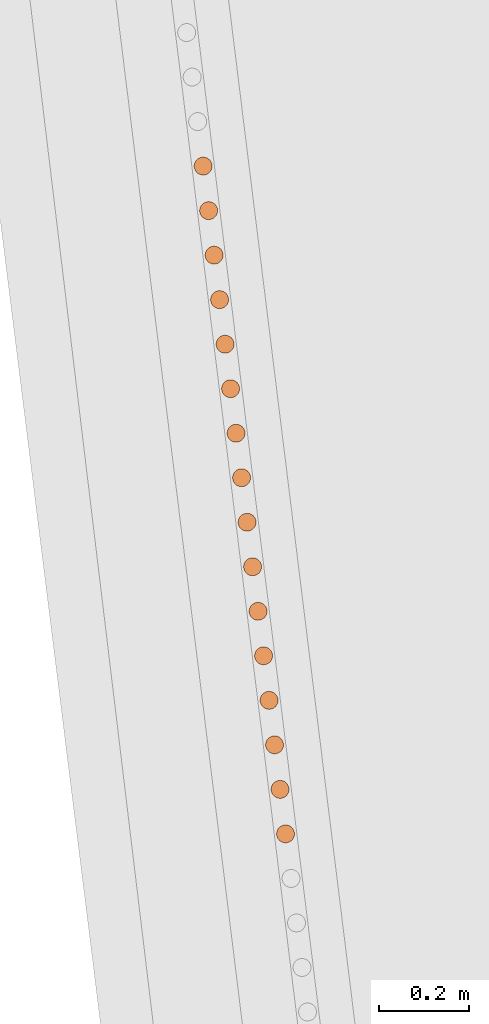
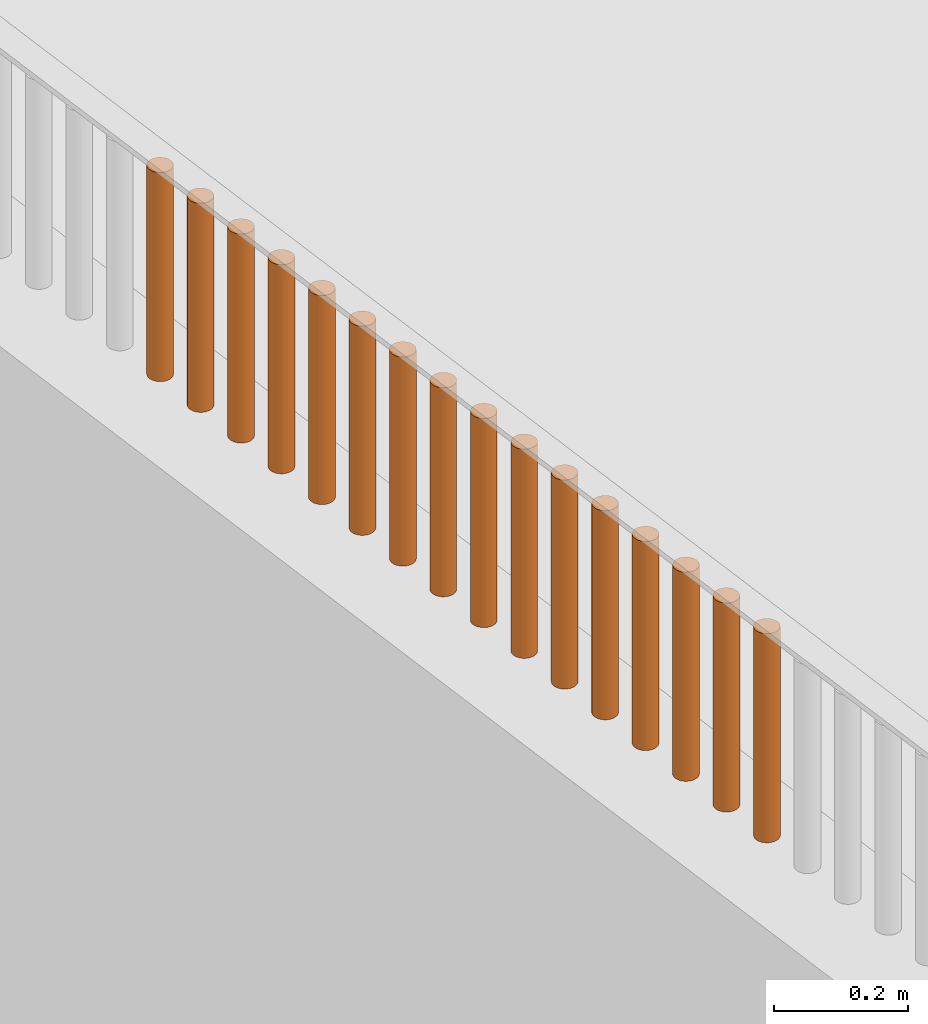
# One storey, part 124 of 1809: 16 proxies, 1 element without a shape of its own.
"""IFC2X3 building model written with IfcOpenShell, lengths in millimetres."""

from ifc_helpers import new_model, entity, si_unit, converted_unit, derived_unit, money_unit, direction, frame, origin_with_axes, place, context, subcontext, project, spatial, faceted_brep, source, transform, mapped, material, type_object, element, aggregate, save


model = new_model("IFC2X3")

# Units and contexts
model_context = context("Model", 3, precision=0.01, world=origin_with_axes(), true_north=direction((0.0, 1.0)))
body_context = subcontext(model_context, "Body", "Model", "MODEL_VIEW")
ifc_project = project(units=[si_unit("LENGTHUNIT", "METRE", prefix="MILLI"), si_unit("AREAUNIT", "SQUARE_METRE"), si_unit("VOLUMEUNIT", "CUBIC_METRE"), converted_unit("PLANEANGLEUNIT", "DEGREE", entity("IfcPlaneAngleMeasure", 0.0174532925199), si_unit("PLANEANGLEUNIT", "RADIAN"), dimensions=[0, 0, 0, 0, 0, 0, 0]), si_unit("SOLIDANGLEUNIT", "STERADIAN"), money_unit("EUR"), converted_unit("TIMEUNIT", "Year", entity("IfcTimeMeasure", 31556926.0), si_unit("TIMEUNIT", "SECOND"), dimensions=[0, 0, 1, 0, 0, 0, 0]), si_unit("MASSUNIT", "GRAM", prefix="KILO"), si_unit("THERMODYNAMICTEMPERATUREUNIT", "DEGREE_CELSIUS"), si_unit("LUMINOUSINTENSITYUNIT", "LUMEN"), si_unit("ENERGYUNIT", "JOULE", prefix="MEGA"), derived_unit("THERMALCONDUCTANCEUNIT", [(si_unit("POWERUNIT", "WATT"), 1), (si_unit("LENGTHUNIT", "METRE"), -1), (si_unit("THERMODYNAMICTEMPERATUREUNIT", "KELVIN"), -1)]), derived_unit("SPECIFICHEATCAPACITYUNIT", [(si_unit("ENERGYUNIT", "JOULE"), 1), (si_unit("MASSUNIT", "GRAM", prefix="KILO"), -1), (si_unit("THERMODYNAMICTEMPERATUREUNIT", "KELVIN"), -1)]), derived_unit("MASSDENSITYUNIT", [(si_unit("MASSUNIT", "GRAM", prefix="KILO"), 1), (si_unit("VOLUMEUNIT", "CUBIC_METRE"), -1)])], contexts=[model_context])

# Site, building, storey
site_placement = place(None, origin_with_axes())
site = spatial("IfcSite", under=ifc_project, at=site_placement, Name="Politse- ja Piirivalveameti ning Päästeameti ühishoone", CompositionType="ELEMENT")
building_placement = place(site_placement, origin_with_axes())
building = spatial("IfcBuilding", under=site, at=building_placement, Name="Politse- ja Piirivalveameti ning Päästeameti ühishoone", CompositionType="ELEMENT")
storey_placement = place(building_placement, origin_with_axes())
storey = spatial("IfcBuildingStorey", under=building, at=storey_placement, Name="Esimene korrus", CompositionType="ELEMENT", Elevation=0.0)

# Proxies
building_element_proxy_type_1 = type_object("IfcBuildingElementProxyType", Name="Railing Type", PredefinedType="NOTDEFINED")
proxy_1_placement = place(storey_placement, frame((-18956.5522504, -53688.4757966, 2100.0), z_axis=(0.0, 0.0, 1.0), x_axis=(1.0, 0.0, 0.0)))
proxy_1 = element("IfcBuildingElementProxy", 1, at=proxy_1_placement, inside=storey, type_object=building_element_proxy_type_1, Name="PIIRDEAED")
ifc_material = material(Name="ET-06_Teras - Konstruktsioon")
building_element_proxy_type_2 = type_object("IfcBuildingElementProxyType", Name="IfcBuildingElementProxy", PredefinedType="NOTDEFINED")
shared_shape_1 = source(origin_with_axes(), body_context, "Body", "Brep", [
    faceted_brep([(0.0, -20.0, 0.0), (3.47296355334, -19.6961550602, 0.0), (3.47296355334, -19.6961550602, 380.000012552), (0.0, -20.0, 380.000012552), (-3.47296355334, -19.6961550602, 0.0), (-6.84040286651, -18.7938524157, 0.0), (-10.0, -17.3205080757, 0.0), (-12.8557521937, -15.3208888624, 0.0), (-15.3208888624, -12.8557521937, 0.0), (-17.3205080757, -10.0, 0.0), (-18.7938524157, -6.84040286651, 0.0), (-19.6961550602, -3.47296355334, 0.0), (-20.0, 0.0, 0.0), (-19.6961550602, 3.47296355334, 0.0), (-18.7938524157, 6.84040286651, 0.0), (-17.3205080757, 10.0, 0.0), (-15.3208888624, 12.8557521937, 0.0), (-12.8557521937, 15.3208888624, 0.0), (-10.0, 17.3205080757, 0.0), (-6.84040286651, 18.7938524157, 0.0), (-3.47296355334, 19.6961550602, 0.0), (0.0, 20.0, 0.0), (3.47296355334, 19.6961550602, 0.0), (6.84040286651, 18.7938524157, 0.0), (10.0, 17.3205080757, 0.0), (12.8557521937, 15.3208888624, 0.0), (15.3208888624, 12.8557521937, 0.0), (17.3205080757, 10.0, 0.0), (18.7938524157, 6.84040286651, 0.0), (19.6961550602, 3.47296355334, 0.0), (20.0, 0.0, 0.0), (19.6961550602, -3.47296355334, 0.0), (18.7938524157, -6.84040286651, 0.0), (17.3205080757, -10.0, 0.0), (15.3208888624, -12.8557521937, 0.0), (12.8557521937, -15.3208888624, 0.0), (10.0, -17.3205080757, 0.0), (6.84040286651, -18.7938524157, 0.0), (6.84040286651, -18.7938524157, 380.000012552), (10.0, -17.3205080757, 380.000012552), (12.8557521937, -15.3208888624, 380.000012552), (15.3208888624, -12.8557521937, 380.000012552), (17.3205080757, -10.0, 380.000012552), (18.7938524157, -6.84040286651, 380.000012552), (19.6961550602, -3.47296355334, 380.000012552), (20.0, 0.0, 380.000012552), (19.6961550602, 3.47296355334, 380.000012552), (18.7938524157, 6.84040286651, 380.000012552), (17.3205080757, 10.0, 380.000012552), (15.3208888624, 12.8557521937, 380.000012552), (12.8557521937, 15.3208888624, 380.000012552), (10.0, 17.3205080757, 380.000012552), (6.84040286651, 18.7938524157, 380.000012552), (3.47296355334, 19.6961550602, 380.000012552), (0.0, 20.0, 380.000012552), (-3.47296355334, 19.6961550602, 380.000012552), (-6.84040286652, 18.7938524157, 380.000012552), (-10.0, 17.3205080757, 380.000012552), (-12.8557521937, 15.3208888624, 380.000012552), (-15.3208888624, 12.8557521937, 380.000012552), (-17.3205080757, 10.0, 380.000012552), (-18.7938524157, 6.84040286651, 380.000012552), (-19.6961550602, 3.47296355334, 380.000012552), (-20.0, 0.0, 380.000012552), (-19.6961550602, -3.47296355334, 380.000012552), (-18.7938524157, -6.84040286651, 380.000012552), (-17.3205080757, -10.0, 380.000012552), (-15.3208888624, -12.8557521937, 380.000012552), (-12.8557521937, -15.3208888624, 380.000012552), (-10.0, -17.3205080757, 380.000012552), (-6.84040286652, -18.7938524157, 380.000012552), (-3.47296355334, -19.6961550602, 380.000012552)], [[[0, 1, 2, 3]], [[0, 4, 5, 6, 7, 8, 9, 10, 11, 12, 13, 14, 15, 16, 17, 18, 19, 20, 21, 22, 23, 24, 25, 26, 27, 28, 29, 30, 31, 32, 33, 34, 35, 36, 37, 1]], [[1, 37, 38, 2]], [[3, 2, 38, 39, 40, 41, 42, 43, 44, 45, 46, 47, 48, 49, 50, 51, 52, 53, 54, 55, 56, 57, 58, 59, 60, 61, 62, 63, 64, 65, 66, 67, 68, 69, 70, 71]], [[4, 0, 3, 71]], [[5, 4, 71, 70]], [[6, 5, 70, 69]], [[7, 6, 69, 68]], [[8, 7, 68, 67]], [[9, 8, 67, 66]], [[10, 9, 66, 65]], [[11, 10, 65, 64]], [[12, 11, 64, 63]], [[13, 12, 63, 62]], [[14, 13, 62, 61]], [[15, 14, 61, 60]], [[16, 15, 60, 59]], [[17, 16, 59, 58]], [[18, 17, 58, 57]], [[19, 18, 57, 56]], [[20, 19, 56, 55]], [[21, 20, 55, 54]], [[22, 21, 54, 53]], [[23, 22, 53, 52]], [[24, 23, 52, 51]], [[25, 24, 51, 50]], [[26, 25, 50, 49]], [[27, 26, 49, 48]], [[28, 27, 48, 47]], [[29, 28, 47, 46]], [[30, 29, 46, 45]], [[31, 30, 45, 44]], [[32, 31, 44, 43]], [[33, 32, 43, 42]], [[34, 33, 42, 41]], [[35, 34, 41, 40]], [[36, 35, 40, 39]], [[37, 36, 39, 38]]]),
])
proxy_2_placement = place(proxy_1_placement, frame((-3510.13251349, 27603.4023128, -1.25517001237e-05), z_axis=(0.0, 0.0, 1.0), x_axis=(1.0, 0.0, 0.0)))
proxy_2 = element("IfcBuildingElementProxy", 2, at=proxy_2_placement, type_object=building_element_proxy_type_2, material=ifc_material, Name="BALUSTER - 001", context=body_context, shape_type="MappedRepresentation", body=[
    mapped(shared_shape_1, transform((0.0, 0.0, 0.0), x_axis=(0.992468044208, 0.122503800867, 0.0), y_axis=(-0.122503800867, 0.992468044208, 0.0), z_axis=(0.0, 0.0, 1.0))),
])
proxy_3_placement = place(proxy_1_placement, frame((-3559.12333314, 28000.3028385, -1.25517001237e-05), z_axis=(0.0, 0.0, 1.0), x_axis=(1.0, 0.0, 0.0)))
proxy_3 = element("IfcBuildingElementProxy", 3, at=proxy_3_placement, type_object=building_element_proxy_type_2, material=ifc_material, Name="BALUSTER - 001", context=body_context, shape_type="MappedRepresentation", body=[
    mapped(shared_shape_1, transform((0.0, 0.0, 0.0), x_axis=(0.992468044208, 0.122503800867, 0.0), y_axis=(-0.122503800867, 0.992468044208, 0.0), z_axis=(0.0, 0.0, 1.0))),
])
proxy_4_placement = place(proxy_1_placement, frame((-3595.86644788, 28297.9782328, -1.25517001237e-05), z_axis=(0.0, 0.0, 1.0), x_axis=(1.0, 0.0, 0.0)))
proxy_4 = element("IfcBuildingElementProxy", 4, at=proxy_4_placement, type_object=building_element_proxy_type_2, material=ifc_material, Name="BALUSTER - 001", context=body_context, shape_type="MappedRepresentation", body=[
    mapped(shared_shape_1, transform((0.0, 0.0, 0.0), x_axis=(0.992468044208, 0.122503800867, 0.0), y_axis=(-0.122503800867, 0.992468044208, 0.0), z_axis=(0.0, 0.0, 1.0))),
])
proxy_5_placement = place(proxy_1_placement, frame((-3632.60956262, 28595.6536271, -1.25517001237e-05), z_axis=(0.0, 0.0, 1.0), x_axis=(1.0, 0.0, 0.0)))
proxy_5 = element("IfcBuildingElementProxy", 5, at=proxy_5_placement, type_object=building_element_proxy_type_2, material=ifc_material, Name="BALUSTER - 001", context=body_context, shape_type="MappedRepresentation", body=[
    mapped(shared_shape_1, transform((0.0, 0.0, 0.0), x_axis=(0.992468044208, 0.122503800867, 0.0), y_axis=(-0.122503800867, 0.992468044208, 0.0), z_axis=(0.0, 0.0, 1.0))),
])
shared_shape_2 = source(origin_with_axes(), body_context, "Body", "Brep", [
    faceted_brep([(0.0, -20.0, 0.0), (3.47296355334, -19.6961550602, 0.0), (3.47296355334, -19.6961550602, 380.000012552), (0.0, -20.0, 380.000012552), (-3.47296355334, -19.6961550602, 0.0), (-6.84040286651, -18.7938524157, 0.0), (-10.0, -17.3205080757, 0.0), (-12.8557521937, -15.3208888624, 0.0), (-15.3208888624, -12.8557521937, 0.0), (-17.3205080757, -10.0, 0.0), (-18.7938524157, -6.84040286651, 0.0), (-19.6961550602, -3.47296355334, 0.0), (-20.0, 0.0, 0.0), (-19.6961550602, 3.47296355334, 0.0), (-18.7938524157, 6.84040286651, 0.0), (-17.3205080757, 10.0, 0.0), (-15.3208888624, 12.8557521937, 0.0), (-12.8557521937, 15.3208888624, 0.0), (-10.0, 17.3205080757, 0.0), (-6.84040286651, 18.7938524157, 0.0), (-3.47296355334, 19.6961550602, 0.0), (0.0, 20.0, 0.0), (3.47296355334, 19.6961550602, 0.0), (6.84040286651, 18.7938524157, 0.0), (10.0, 17.3205080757, 0.0), (12.8557521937, 15.3208888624, 0.0), (15.3208888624, 12.8557521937, 0.0), (17.3205080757, 10.0, 0.0), (18.7938524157, 6.84040286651, 0.0), (19.6961550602, 3.47296355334, 0.0), (20.0, 0.0, 0.0), (19.6961550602, -3.47296355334, 0.0), (18.7938524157, -6.84040286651, 0.0), (17.3205080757, -10.0, 0.0), (15.3208888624, -12.8557521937, 0.0), (12.8557521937, -15.3208888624, 0.0), (10.0, -17.3205080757, 0.0), (6.84040286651, -18.7938524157, 0.0), (6.84040286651, -18.7938524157, 380.000012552), (10.0, -17.3205080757, 380.000012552), (12.8557521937, -15.3208888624, 380.000012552), (15.3208888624, -12.8557521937, 380.000012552), (17.3205080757, -10.0, 380.000012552), (18.7938524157, -6.84040286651, 380.000012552), (19.6961550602, -3.47296355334, 380.000012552), (20.0, 0.0, 380.000012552), (19.6961550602, 3.47296355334, 380.000012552), (18.7938524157, 6.84040286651, 380.000012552), (17.3205080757, 10.0, 380.000012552), (15.3208888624, 12.8557521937, 380.000012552), (12.8557521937, 15.3208888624, 380.000012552), (10.0, 17.3205080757, 380.000012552), (6.84040286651, 18.7938524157, 380.000012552), (3.47296355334, 19.6961550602, 380.000012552), (0.0, 20.0, 380.000012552), (-3.47296355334, 19.6961550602, 380.000012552), (-6.84040286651, 18.7938524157, 380.000012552), (-10.0, 17.3205080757, 380.000012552), (-12.8557521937, 15.3208888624, 380.000012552), (-15.3208888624, 12.8557521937, 380.000012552), (-17.3205080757, 10.0, 380.000012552), (-18.7938524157, 6.84040286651, 380.000012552), (-19.6961550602, 3.47296355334, 380.000012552), (-20.0, 0.0, 380.000012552), (-19.6961550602, -3.47296355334, 380.000012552), (-18.7938524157, -6.84040286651, 380.000012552), (-17.3205080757, -10.0, 380.000012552), (-15.3208888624, -12.8557521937, 380.000012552), (-12.8557521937, -15.3208888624, 380.000012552), (-10.0, -17.3205080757, 380.000012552), (-6.84040286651, -18.7938524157, 380.000012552), (-3.47296355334, -19.6961550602, 380.000012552)], [[[0, 1, 2, 3]], [[0, 4, 5, 6, 7, 8, 9, 10, 11, 12, 13, 14, 15, 16, 17, 18, 19, 20, 21, 22, 23, 24, 25, 26, 27, 28, 29, 30, 31, 32, 33, 34, 35, 36, 37, 1]], [[1, 37, 38, 2]], [[3, 2, 38, 39, 40, 41, 42, 43, 44, 45, 46, 47, 48, 49, 50, 51, 52, 53, 54, 55, 56, 57, 58, 59, 60, 61, 62, 63, 64, 65, 66, 67, 68, 69, 70, 71]], [[4, 0, 3, 71]], [[5, 4, 71, 70]], [[6, 5, 70, 69]], [[7, 6, 69, 68]], [[8, 7, 68, 67]], [[9, 8, 67, 66]], [[10, 9, 66, 65]], [[11, 10, 65, 64]], [[12, 11, 64, 63]], [[13, 12, 63, 62]], [[14, 13, 62, 61]], [[15, 14, 61, 60]], [[16, 15, 60, 59]], [[17, 16, 59, 58]], [[18, 17, 58, 57]], [[19, 18, 57, 56]], [[20, 19, 56, 55]], [[21, 20, 55, 54]], [[22, 21, 54, 53]], [[23, 22, 53, 52]], [[24, 23, 52, 51]], [[25, 24, 51, 50]], [[26, 25, 50, 49]], [[27, 26, 49, 48]], [[28, 27, 48, 47]], [[29, 28, 47, 46]], [[30, 29, 46, 45]], [[31, 30, 45, 44]], [[32, 31, 44, 43]], [[33, 32, 43, 42]], [[34, 33, 42, 41]], [[35, 34, 41, 40]], [[36, 35, 40, 39]], [[37, 36, 39, 38]]]),
])
proxy_6_placement = place(proxy_1_placement, frame((-3448.89398892, 27107.2766557, -1.25517001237e-05), z_axis=(0.0, 0.0, 1.0), x_axis=(1.0, 0.0, 0.0)))
proxy_6 = element("IfcBuildingElementProxy", 6, at=proxy_6_placement, type_object=building_element_proxy_type_2, material=ifc_material, Name="BALUSTER - 001", context=body_context, shape_type="MappedRepresentation", body=[
    mapped(shared_shape_2, transform((0.0, 0.0, 0.0), x_axis=(0.992468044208, 0.122503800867, 0.0), y_axis=(-0.122503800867, 0.992468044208, 0.0), z_axis=(0.0, 0.0, 1.0))),
])
proxy_7_placement = place(proxy_1_placement, frame((-3473.38939875, 27305.7269185, -1.25517001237e-05), z_axis=(0.0, 0.0, 1.0), x_axis=(1.0, 0.0, 0.0)))
proxy_7 = element("IfcBuildingElementProxy", 7, at=proxy_7_placement, type_object=building_element_proxy_type_2, material=ifc_material, Name="BALUSTER - 001", context=body_context, shape_type="MappedRepresentation", body=[
    mapped(shared_shape_2, transform((0.0, 0.0, 0.0), x_axis=(0.992468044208, 0.122503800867, 0.0), y_axis=(-0.122503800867, 0.992468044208, 0.0), z_axis=(0.0, 0.0, 1.0))),
])
proxy_8_placement = place(proxy_1_placement, frame((-3485.63710366, 27404.95205, -1.25517001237e-05), z_axis=(0.0, 0.0, 1.0), x_axis=(1.0, 0.0, 0.0)))
proxy_8 = element("IfcBuildingElementProxy", 8, at=proxy_8_placement, type_object=building_element_proxy_type_2, material=ifc_material, Name="BALUSTER - 001", context=body_context, shape_type="MappedRepresentation", body=[
    mapped(shared_shape_2, transform((0.0, 0.0, 0.0), x_axis=(0.992468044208, 0.122503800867, 0.0), y_axis=(-0.122503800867, 0.992468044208, 0.0), z_axis=(0.0, 0.0, 1.0))),
])
proxy_9_placement = place(proxy_1_placement, frame((-3497.88480857, 27504.1771814, -1.25517001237e-05), z_axis=(0.0, 0.0, 1.0), x_axis=(1.0, 0.0, 0.0)))
proxy_9 = element("IfcBuildingElementProxy", 9, at=proxy_9_placement, type_object=building_element_proxy_type_2, material=ifc_material, Name="BALUSTER - 001", context=body_context, shape_type="MappedRepresentation", body=[
    mapped(shared_shape_2, transform((0.0, 0.0, 0.0), x_axis=(0.992468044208, 0.122503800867, 0.0), y_axis=(-0.122503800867, 0.992468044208, 0.0), z_axis=(0.0, 0.0, 1.0))),
])
proxy_10_placement = place(proxy_1_placement, frame((-3522.3802184, 27702.6274442, -1.25517001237e-05), z_axis=(0.0, 0.0, 1.0), x_axis=(1.0, 0.0, 0.0)))
proxy_10 = element("IfcBuildingElementProxy", 10, at=proxy_10_placement, type_object=building_element_proxy_type_2, material=ifc_material, Name="BALUSTER - 001", context=body_context, shape_type="MappedRepresentation", body=[
    mapped(shared_shape_2, transform((0.0, 0.0, 0.0), x_axis=(0.992468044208, 0.122503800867, 0.0), y_axis=(-0.122503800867, 0.992468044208, 0.0), z_axis=(0.0, 0.0, 1.0))),
])
shared_shape_3 = source(origin_with_axes(), body_context, "Body", "Brep", [
    faceted_brep([(0.0, -20.0, 0.0), (3.47296355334, -19.6961550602, 0.0), (3.47296355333, -19.6961550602, 380.000012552), (0.0, -20.0, 380.000012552), (-3.47296355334, -19.6961550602, 0.0), (-6.84040286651, -18.7938524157, 0.0), (-10.0, -17.3205080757, 0.0), (-12.8557521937, -15.3208888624, 0.0), (-15.3208888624, -12.8557521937, 0.0), (-17.3205080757, -10.0, 0.0), (-18.7938524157, -6.84040286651, 0.0), (-19.6961550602, -3.47296355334, 0.0), (-20.0, 0.0, 0.0), (-19.6961550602, 3.47296355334, 0.0), (-18.7938524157, 6.84040286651, 0.0), (-17.3205080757, 10.0, 0.0), (-15.3208888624, 12.8557521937, 0.0), (-12.8557521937, 15.3208888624, 0.0), (-10.0, 17.3205080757, 0.0), (-6.84040286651, 18.7938524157, 0.0), (-3.47296355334, 19.6961550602, 0.0), (0.0, 20.0, 0.0), (3.47296355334, 19.6961550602, 0.0), (6.84040286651, 18.7938524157, 0.0), (10.0, 17.3205080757, 0.0), (12.8557521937, 15.3208888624, 0.0), (15.3208888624, 12.8557521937, 0.0), (17.3205080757, 10.0, 0.0), (18.7938524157, 6.84040286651, 0.0), (19.6961550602, 3.47296355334, 0.0), (20.0, 0.0, 0.0), (19.6961550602, -3.47296355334, 0.0), (18.7938524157, -6.84040286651, 0.0), (17.3205080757, -10.0, 0.0), (15.3208888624, -12.8557521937, 0.0), (12.8557521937, -15.3208888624, 0.0), (10.0, -17.3205080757, 0.0), (6.84040286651, -18.7938524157, 0.0), (6.84040286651, -18.7938524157, 380.000012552), (9.99999999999, -17.3205080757, 380.000012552), (12.8557521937, -15.3208888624, 380.000012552), (15.3208888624, -12.8557521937, 380.000012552), (17.3205080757, -10.0, 380.000012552), (18.7938524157, -6.84040286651, 380.000012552), (19.6961550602, -3.47296355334, 380.000012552), (20.0, 0.0, 380.000012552), (19.6961550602, 3.47296355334, 380.000012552), (18.7938524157, 6.84040286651, 380.000012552), (17.3205080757, 10.0, 380.000012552), (15.3208888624, 12.8557521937, 380.000012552), (12.8557521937, 15.3208888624, 380.000012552), (9.99999999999, 17.3205080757, 380.000012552), (6.84040286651, 18.7938524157, 380.000012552), (3.47296355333, 19.6961550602, 380.000012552), (0.0, 20.0, 380.000012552), (-3.47296355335, 19.6961550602, 380.000012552), (-6.84040286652, 18.7938524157, 380.000012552), (-10.0, 17.3205080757, 380.000012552), (-12.8557521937, 15.3208888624, 380.000012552), (-15.3208888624, 12.8557521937, 380.000012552), (-17.3205080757, 10.0, 380.000012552), (-18.7938524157, 6.84040286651, 380.000012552), (-19.6961550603, 3.47296355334, 380.000012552), (-20.0, 0.0, 380.000012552), (-19.6961550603, -3.47296355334, 380.000012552), (-18.7938524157, -6.84040286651, 380.000012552), (-17.3205080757, -10.0, 380.000012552), (-15.3208888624, -12.8557521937, 380.000012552), (-12.8557521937, -15.3208888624, 380.000012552), (-10.0, -17.3205080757, 380.000012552), (-6.84040286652, -18.7938524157, 380.000012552), (-3.47296355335, -19.6961550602, 380.000012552)], [[[0, 1, 2, 3]], [[0, 4, 5, 6, 7, 8, 9, 10, 11, 12, 13, 14, 15, 16, 17, 18, 19, 20, 21, 22, 23, 24, 25, 26, 27, 28, 29, 30, 31, 32, 33, 34, 35, 36, 37, 1]], [[1, 37, 38, 2]], [[3, 2, 38, 39, 40, 41, 42, 43, 44, 45, 46, 47, 48, 49, 50, 51, 52, 53, 54, 55, 56, 57, 58, 59, 60, 61, 62, 63, 64, 65, 66, 67, 68, 69, 70, 71]], [[4, 0, 3, 71]], [[5, 4, 71, 70]], [[6, 5, 70, 69]], [[7, 6, 69, 68]], [[8, 7, 68, 67]], [[9, 8, 67, 66]], [[10, 9, 66, 65]], [[11, 10, 65, 64]], [[12, 11, 64, 63]], [[13, 12, 63, 62]], [[14, 13, 62, 61]], [[15, 14, 61, 60]], [[16, 15, 60, 59]], [[17, 16, 59, 58]], [[18, 17, 58, 57]], [[19, 18, 57, 56]], [[20, 19, 56, 55]], [[21, 20, 55, 54]], [[22, 21, 54, 53]], [[23, 22, 53, 52]], [[24, 23, 52, 51]], [[25, 24, 51, 50]], [[26, 25, 50, 49]], [[27, 26, 49, 48]], [[28, 27, 48, 47]], [[29, 28, 47, 46]], [[30, 29, 46, 45]], [[31, 30, 45, 44]], [[32, 31, 44, 43]], [[33, 32, 43, 42]], [[34, 33, 42, 41]], [[35, 34, 41, 40]], [[36, 35, 40, 39]], [[37, 36, 39, 38]]]),
])
proxy_11_placement = place(proxy_1_placement, frame((-3546.87562823, 27901.0777071, -1.25517001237e-05), z_axis=(0.0, 0.0, 1.0), x_axis=(1.0, 0.0, 0.0)))
proxy_11 = element("IfcBuildingElementProxy", 11, at=proxy_11_placement, type_object=building_element_proxy_type_2, material=ifc_material, Name="BALUSTER - 001", context=body_context, shape_type="MappedRepresentation", body=[
    mapped(shared_shape_3, transform((0.0, 0.0, 0.0), x_axis=(0.992468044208, 0.122503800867, 0.0), y_axis=(-0.122503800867, 0.992468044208, 0.0), z_axis=(0.0, 0.0, 1.0))),
])
shared_shape_4 = source(origin_with_axes(), body_context, "Body", "Brep", [
    faceted_brep([(0.0, -20.0, 0.0), (3.47296355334, -19.6961550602, 0.0), (3.47296355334, -19.6961550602, 380.000012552), (0.0, -20.0, 380.000012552), (-3.47296355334, -19.6961550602, 0.0), (-6.84040286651, -18.7938524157, 0.0), (-10.0, -17.3205080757, 0.0), (-12.8557521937, -15.3208888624, 0.0), (-15.3208888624, -12.8557521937, 0.0), (-17.3205080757, -10.0, 0.0), (-18.7938524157, -6.84040286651, 0.0), (-19.6961550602, -3.47296355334, 0.0), (-20.0, 0.0, 0.0), (-19.6961550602, 3.47296355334, 0.0), (-18.7938524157, 6.84040286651, 0.0), (-17.3205080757, 10.0, 0.0), (-15.3208888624, 12.8557521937, 0.0), (-12.8557521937, 15.3208888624, 0.0), (-10.0, 17.3205080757, 0.0), (-6.84040286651, 18.7938524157, 0.0), (-3.47296355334, 19.6961550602, 0.0), (0.0, 20.0, 0.0), (3.47296355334, 19.6961550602, 0.0), (6.84040286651, 18.7938524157, 0.0), (10.0, 17.3205080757, 0.0), (12.8557521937, 15.3208888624, 0.0), (15.3208888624, 12.8557521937, 0.0), (17.3205080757, 10.0, 0.0), (18.7938524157, 6.84040286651, 0.0), (19.6961550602, 3.47296355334, 0.0), (20.0, 0.0, 0.0), (19.6961550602, -3.47296355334, 0.0), (18.7938524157, -6.84040286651, 0.0), (17.3205080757, -10.0, 0.0), (15.3208888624, -12.8557521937, 0.0), (12.8557521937, -15.3208888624, 0.0), (10.0, -17.3205080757, 0.0), (6.84040286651, -18.7938524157, 0.0), (6.84040286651, -18.7938524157, 380.000012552), (10.0, -17.3205080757, 380.000012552), (12.8557521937, -15.3208888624, 380.000012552), (15.3208888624, -12.8557521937, 380.000012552), (17.3205080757, -10.0, 380.000012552), (18.7938524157, -6.84040286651, 380.000012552), (19.6961550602, -3.47296355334, 380.000012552), (20.0, 0.0, 380.000012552), (19.6961550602, 3.47296355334, 380.000012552), (18.7938524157, 6.84040286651, 380.000012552), (17.3205080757, 10.0, 380.000012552), (15.3208888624, 12.8557521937, 380.000012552), (12.8557521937, 15.3208888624, 380.000012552), (10.0, 17.3205080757, 380.000012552), (6.84040286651, 18.7938524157, 380.000012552), (3.47296355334, 19.6961550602, 380.000012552), (0.0, 20.0, 380.000012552), (-3.47296355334, 19.6961550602, 380.000012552), (-6.84040286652, 18.7938524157, 380.000012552), (-10.0, 17.3205080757, 380.000012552), (-12.8557521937, 15.3208888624, 380.000012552), (-15.3208888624, 12.8557521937, 380.000012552), (-17.3205080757, 10.0, 380.000012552), (-18.7938524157, 6.84040286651, 380.000012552), (-19.6961550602, 3.47296355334, 380.000012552), (-20.0, 0.0, 380.000012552), (-19.6961550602, -3.47296355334, 380.000012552), (-18.7938524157, -6.84040286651, 380.000012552), (-17.3205080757, -10.0, 380.000012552), (-15.3208888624, -12.8557521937, 380.000012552), (-12.8557521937, -15.3208888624, 380.000012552), (-10.0, -17.3205080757, 380.000012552), (-6.84040286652, -18.7938524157, 380.000012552), (-3.47296355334, -19.6961550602, 380.000012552)], [[[0, 1, 2, 3]], [[0, 4, 5, 6, 7, 8, 9, 10, 11, 12, 13, 14, 15, 16, 17, 18, 19, 20, 21, 22, 23, 24, 25, 26, 27, 28, 29, 30, 31, 32, 33, 34, 35, 36, 37, 1]], [[1, 37, 38, 2]], [[3, 2, 38, 39, 40, 41, 42, 43, 44, 45, 46, 47, 48, 49, 50, 51, 52, 53, 54, 55, 56, 57, 58, 59, 60, 61, 62, 63, 64, 65, 66, 67, 68, 69, 70, 71]], [[4, 0, 3, 71]], [[5, 4, 71, 70]], [[6, 5, 70, 69]], [[7, 6, 69, 68]], [[8, 7, 68, 67]], [[9, 8, 67, 66]], [[10, 9, 66, 65]], [[11, 10, 65, 64]], [[12, 11, 64, 63]], [[13, 12, 63, 62]], [[14, 13, 62, 61]], [[15, 14, 61, 60]], [[16, 15, 60, 59]], [[17, 16, 59, 58]], [[18, 17, 58, 57]], [[19, 18, 57, 56]], [[20, 19, 56, 55]], [[21, 20, 55, 54]], [[22, 21, 54, 53]], [[23, 22, 53, 52]], [[24, 23, 52, 51]], [[25, 24, 51, 50]], [[26, 25, 50, 49]], [[27, 26, 49, 48]], [[28, 27, 48, 47]], [[29, 28, 47, 46]], [[30, 29, 46, 45]], [[31, 30, 45, 44]], [[32, 31, 44, 43]], [[33, 32, 43, 42]], [[34, 33, 42, 41]], [[35, 34, 41, 40]], [[36, 35, 40, 39]], [[37, 36, 39, 38]]]),
])
proxy_12_placement = place(proxy_1_placement, frame((-3534.62792331, 27801.8525757, -1.25517001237e-05), z_axis=(0.0, 0.0, 1.0), x_axis=(1.0, 0.0, 0.0)))
proxy_12 = element("IfcBuildingElementProxy", 12, at=proxy_12_placement, type_object=building_element_proxy_type_2, material=ifc_material, Name="BALUSTER - 001", context=body_context, shape_type="MappedRepresentation", body=[
    mapped(shared_shape_4, transform((0.0, 0.0, 0.0), x_axis=(0.992468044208, 0.122503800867, 0.0), y_axis=(-0.122503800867, 0.992468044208, 0.0), z_axis=(0.0, 0.0, 1.0))),
])
proxy_13_placement = place(proxy_1_placement, frame((-3608.11415279, 28397.2033642, -1.25517001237e-05), z_axis=(0.0, 0.0, 1.0), x_axis=(1.0, 0.0, 0.0)))
proxy_13 = element("IfcBuildingElementProxy", 13, at=proxy_13_placement, type_object=building_element_proxy_type_2, material=ifc_material, Name="BALUSTER - 001", context=body_context, shape_type="MappedRepresentation", body=[
    mapped(shared_shape_4, transform((0.0, 0.0, 0.0), x_axis=(0.992468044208, 0.122503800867, 0.0), y_axis=(-0.122503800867, 0.992468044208, 0.0), z_axis=(0.0, 0.0, 1.0))),
])
shared_shape_5 = source(origin_with_axes(), body_context, "Body", "Brep", [
    faceted_brep([(0.0, -20.0, 0.0), (3.47296355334, -19.6961550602, 0.0), (3.47296355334, -19.6961550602, 380.000012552), (0.0, -20.0, 380.000012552), (-3.47296355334, -19.6961550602, 0.0), (-6.84040286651, -18.7938524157, 0.0), (-10.0, -17.3205080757, 0.0), (-12.8557521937, -15.3208888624, 0.0), (-15.3208888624, -12.8557521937, 0.0), (-17.3205080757, -10.0, 0.0), (-18.7938524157, -6.84040286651, 0.0), (-19.6961550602, -3.47296355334, 0.0), (-20.0, 0.0, 0.0), (-19.6961550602, 3.47296355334, 0.0), (-18.7938524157, 6.84040286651, 0.0), (-17.3205080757, 10.0, 0.0), (-15.3208888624, 12.8557521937, 0.0), (-12.8557521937, 15.3208888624, 0.0), (-10.0, 17.3205080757, 0.0), (-6.84040286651, 18.7938524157, 0.0), (-3.47296355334, 19.6961550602, 0.0), (0.0, 20.0, 0.0), (3.47296355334, 19.6961550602, 0.0), (6.84040286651, 18.7938524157, 0.0), (10.0, 17.3205080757, 0.0), (12.8557521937, 15.3208888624, 0.0), (15.3208888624, 12.8557521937, 0.0), (17.3205080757, 10.0, 0.0), (18.7938524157, 6.84040286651, 0.0), (19.6961550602, 3.47296355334, 0.0), (20.0, 0.0, 0.0), (19.6961550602, -3.47296355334, 0.0), (18.7938524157, -6.84040286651, 0.0), (17.3205080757, -10.0, 0.0), (15.3208888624, -12.8557521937, 0.0), (12.8557521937, -15.3208888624, 0.0), (10.0, -17.3205080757, 0.0), (6.84040286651, -18.7938524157, 0.0), (6.84040286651, -18.7938524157, 380.000012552), (10.0, -17.3205080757, 380.000012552), (12.8557521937, -15.3208888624, 380.000012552), (15.3208888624, -12.8557521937, 380.000012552), (17.3205080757, -10.0, 380.000012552), (18.7938524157, -6.84040286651, 380.000012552), (19.6961550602, -3.47296355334, 380.000012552), (20.0, 0.0, 380.000012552), (19.6961550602, 3.47296355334, 380.000012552), (18.7938524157, 6.84040286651, 380.000012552), (17.3205080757, 10.0, 380.000012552), (15.3208888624, 12.8557521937, 380.000012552), (12.8557521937, 15.3208888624, 380.000012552), (10.0, 17.3205080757, 380.000012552), (6.84040286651, 18.7938524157, 380.000012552), (3.47296355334, 19.6961550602, 380.000012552), (0.0, 20.0, 380.000012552), (-3.47296355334, 19.6961550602, 380.000012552), (-6.84040286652, 18.7938524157, 380.000012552), (-10.0, 17.3205080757, 380.000012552), (-12.8557521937, 15.3208888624, 380.000012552), (-15.3208888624, 12.8557521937, 380.000012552), (-17.3205080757, 10.0, 380.000012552), (-18.7938524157, 6.84040286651, 380.000012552), (-19.6961550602, 3.47296355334, 380.000012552), (-20.0, 0.0, 380.000012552), (-19.6961550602, -3.47296355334, 380.000012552), (-18.7938524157, -6.84040286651, 380.000012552), (-17.3205080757, -10.0, 380.000012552), (-15.3208888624, -12.8557521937, 380.000012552), (-12.8557521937, -15.3208888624, 380.000012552), (-10.0, -17.3205080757, 380.000012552), (-6.84040286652, -18.7938524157, 380.000012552), (-3.47296355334, -19.6961550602, 380.000012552)], [[[0, 1, 2, 3]], [[0, 4, 5, 6, 7, 8, 9, 10, 11, 12, 13, 14, 15, 16, 17, 18, 19, 20, 21, 22, 23, 24, 25, 26, 27, 28, 29, 30, 31, 32, 33, 34, 35, 36, 37, 1]], [[1, 37, 38, 2]], [[3, 2, 38, 39, 40, 41, 42, 43, 44, 45, 46, 47, 48, 49, 50, 51, 52, 53, 54, 55, 56, 57, 58, 59, 60, 61, 62, 63, 64, 65, 66, 67, 68, 69, 70, 71]], [[4, 0, 3, 71]], [[5, 4, 71, 70]], [[6, 5, 70, 69]], [[7, 6, 69, 68]], [[8, 7, 68, 67]], [[9, 8, 67, 66]], [[10, 9, 66, 65]], [[11, 10, 65, 64]], [[12, 11, 64, 63]], [[13, 12, 63, 62]], [[14, 13, 62, 61]], [[15, 14, 61, 60]], [[16, 15, 60, 59]], [[17, 16, 59, 58]], [[18, 17, 58, 57]], [[19, 18, 57, 56]], [[20, 19, 56, 55]], [[21, 20, 55, 54]], [[22, 21, 54, 53]], [[23, 22, 53, 52]], [[24, 23, 52, 51]], [[25, 24, 51, 50]], [[26, 25, 50, 49]], [[27, 26, 49, 48]], [[28, 27, 48, 47]], [[29, 28, 47, 46]], [[30, 29, 46, 45]], [[31, 30, 45, 44]], [[32, 31, 44, 43]], [[33, 32, 43, 42]], [[34, 33, 42, 41]], [[35, 34, 41, 40]], [[36, 35, 40, 39]], [[37, 36, 39, 38]]]),
])
proxy_14_placement = place(proxy_1_placement, frame((-3461.14169384, 27206.5017871, -1.25517001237e-05), z_axis=(0.0, 0.0, 1.0), x_axis=(1.0, 0.0, 0.0)))
proxy_14 = element("IfcBuildingElementProxy", 14, at=proxy_14_placement, type_object=building_element_proxy_type_2, material=ifc_material, Name="BALUSTER - 001", context=body_context, shape_type="MappedRepresentation", body=[
    mapped(shared_shape_5, transform((0.0, 0.0, 0.0), x_axis=(0.992468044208, 0.122503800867, 0.0), y_axis=(-0.122503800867, 0.992468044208, 0.0), z_axis=(0.0, 0.0, 1.0))),
])
proxy_15_placement = place(proxy_1_placement, frame((-3571.37103805, 28099.5279699, -1.25517001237e-05), z_axis=(0.0, 0.0, 1.0), x_axis=(1.0, 0.0, 0.0)))
proxy_15 = element("IfcBuildingElementProxy", 15, at=proxy_15_placement, type_object=building_element_proxy_type_2, material=ifc_material, Name="BALUSTER - 001", context=body_context, shape_type="MappedRepresentation", body=[
    mapped(shared_shape_5, transform((0.0, 0.0, 0.0), x_axis=(0.992468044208, 0.122503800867, 0.0), y_axis=(-0.122503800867, 0.992468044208, 0.0), z_axis=(0.0, 0.0, 1.0))),
])
proxy_16_placement = place(proxy_1_placement, frame((-3583.61874297, 28198.7531014, -1.25517001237e-05), z_axis=(0.0, 0.0, 1.0), x_axis=(1.0, 0.0, 0.0)))
proxy_16 = element("IfcBuildingElementProxy", 16, at=proxy_16_placement, type_object=building_element_proxy_type_2, material=ifc_material, Name="BALUSTER - 001", context=body_context, shape_type="MappedRepresentation", body=[
    mapped(shared_shape_5, transform((0.0, 0.0, 0.0), x_axis=(0.992468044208, 0.122503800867, 0.0), y_axis=(-0.122503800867, 0.992468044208, 0.0), z_axis=(0.0, 0.0, 1.0))),
])
proxy_17_placement = place(proxy_1_placement, frame((-3620.36185771, 28496.4284956, -1.25517001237e-05), z_axis=(0.0, 0.0, 1.0), x_axis=(1.0, 0.0, 0.0)))
proxy_17 = element("IfcBuildingElementProxy", 17, at=proxy_17_placement, type_object=building_element_proxy_type_2, material=ifc_material, Name="BALUSTER - 001", context=body_context, shape_type="MappedRepresentation", body=[
    mapped(shared_shape_5, transform((0.0, 0.0, 0.0), x_axis=(0.992468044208, 0.122503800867, 0.0), y_axis=(-0.122503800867, 0.992468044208, 0.0), z_axis=(0.0, 0.0, 1.0))),
])
aggregate(proxy_1, [proxy_6, proxy_14, proxy_7, proxy_8, proxy_9, proxy_2, proxy_10, proxy_12, proxy_11, proxy_3, proxy_15, proxy_16, proxy_4, proxy_13, proxy_17, proxy_5])

save(model, "model.ifc")
